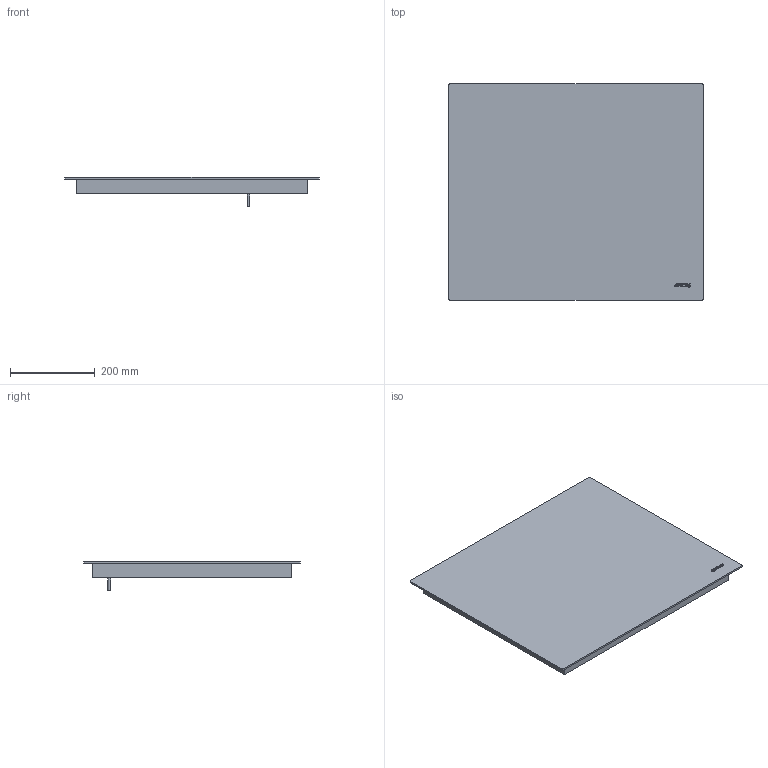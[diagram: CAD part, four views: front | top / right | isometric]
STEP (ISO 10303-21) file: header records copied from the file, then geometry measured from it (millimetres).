
FILE_DESCRIPTION(/* description */ (''),/* implementation_level */ '2;1');
FILE_NAME(/* name */ 'SIM3644D.stp',/* time_stamp */ '2021-07-29T18:27:54+02:00',/* author */ (''),/* organization */ (''),/* preprocessor_version */ 'ST-DEVELOPER v16',/* originating_system */ 'SIEMENS PLM Software NX 11.0',/* authorisation */ '');
FILE_SCHEMA (('AUTOMOTIVE_DESIGN { 1 0 10303 214 3 1 1 1 }'));
Length unit declared in the file: millimetre
Products named in the file (1): mart2CE4D59Czw0a
Bounding box: 600 x 510 x 69.1 mm (x, y, z)
Volume: 10206586.9 mm3; surface area: 1206151.3 mm2
Topology: 12 solids, 12 shells, 95 faces, 210 edges, 140 vertices
Faces by surface type: plane 59, cylinder 25, extrusion 11
Full cylindrical faces by diameter (mm): 3.37 x6, 6 x1
Entity records: 2928 total; most frequent: CARTESIAN_POINT 741, DIRECTION 410, ORIENTED_EDGE 404, EDGE_CURVE 202, VERTEX_POINT 140, VECTOR 140, AXIS2_PLACEMENT_3D 135, LINE 129
